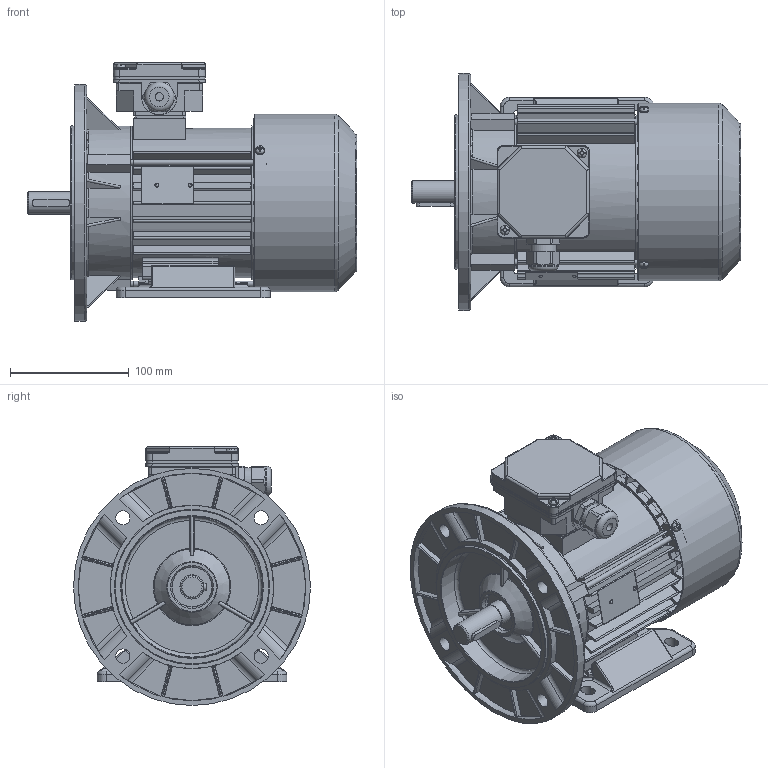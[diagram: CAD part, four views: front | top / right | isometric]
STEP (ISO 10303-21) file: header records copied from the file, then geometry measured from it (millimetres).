
FILE_DESCRIPTION(/* description */ ('Unknown'),/* implementation_level */ '2;1');
FILE_NAME(/* name */ 'SLh80-2B',/* time_stamp */ '2019-02-13T11:44:22+01:00',/* author */ ('Klaudiusz Szlosek'),/* organization */ ('BESEL S.A.'),/* preprocessor_version */ 'ST-DEVELOPER v16.7',/* originating_system */ 'DEX',/* authorisation */ $);
FILE_SCHEMA (('AUTOMOTIVE_DESIGN {1 0 10303 214 3 1 1}'));
Products named in the file (1): Czêœæ10
Bounding box: 277.78 x 200 x 218.5 mm (x, y, z)
Volume: 1103232.7 mm3; surface area: 568357.2 mm2
Topology: 3 solids, 3 shells, 2641 faces, 7427 edges, 4822 vertices
Faces by surface type: plane 1308, cylinder 881, torus 202, cone 122, bspline 108, sphere 20
Full cylindrical faces by diameter (mm): 2 x2, 2.4 x2, 3.7 x8, 4 x4, 4.5 x1, 4.6 x3, 4.8 x2, 5 x5, 5.5 x3, 6.5 x4, 7 x1, 8 x9, 12 x4, 18.998 x1, 19.298 x1, 19.498 x1, 19.898 x1, 20.298 x2, 20.398 x2, 20.4 x2, 22.3 x1, 25 x1, 25.497 x1, 25.997 x2, 26.097 x1, 26.997 x1, 28.799 x4, 34 x2, 38.198 x4, 42 x3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
Entity records: 107708 total; most frequent: CARTESIAN_POINT 22820, ORIENTED_EDGE 14186, DIRECTION 13415, EDGE_CURVE 7093, AXIS2_PLACEMENT_3D 4851, VERTEX_POINT 4701, LINE 3713, VECTOR 3713
